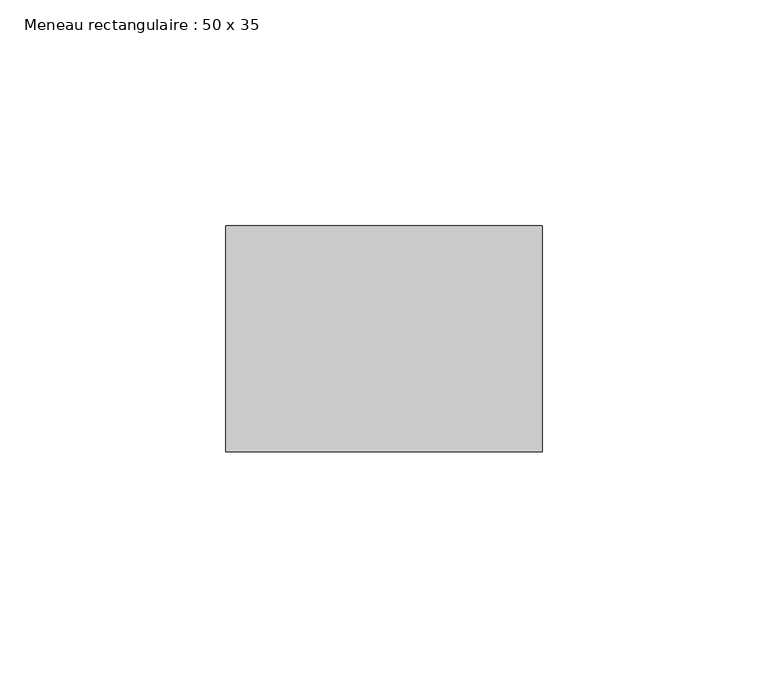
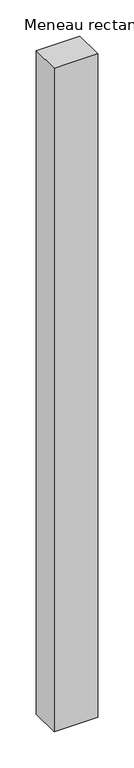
"""IFC4 building model written with IfcOpenShell, lengths in millimetres: member geometry, Meneau rectangulaire : 50 x 35."""

from ifc_helpers import new_model, si_unit, frame, origin, place, context, project, spatial, polyline, outline, extrude, source, transform, mapped, element, save


def meneau_rectangulaire_50_x_35_a2640ca1(model_context):
    return source(origin(), model_context, "Body", "SweptSolid", [
        extrude(outline(polyline([(35.0, 0.0), (35.0, -50.0), (-35.0, -50.0), (-35.0, 0.0), (35.0, 0.0)])), frame((0.0, 0.0, -1122.9820087), z_axis=(0.0, 0.0, 1.0), x_axis=(1.0, 0.0, 0.0)), (0.0, 0.0, 1.0), 1122.9820087),
    ])


if __name__ == "__main__":
    model = new_model("IFC4")
    model_context = context("Model", 3, world=origin())
    ifc_project = project(units=[si_unit("LENGTHUNIT", "METRE", prefix="MILLI")], contexts=[model_context])
    site = spatial("IfcSite", under=ifc_project)
    building = spatial("IfcBuilding", under=site)
    placement = place(None, origin())
    meneau_rectangulaire_50_x_35_shape = meneau_rectangulaire_50_x_35_a2640ca1(model_context)
    element("IfcMember", 1, ObjectType="Meneau rectangulaire : 50 x 35", at=placement, inside=building, context=model_context, shape_type="MappedRepresentation", body=[
        mapped(meneau_rectangulaire_50_x_35_shape, transform((0.0, 0.0, 0.0), x_axis=(1.0, 0.0, 0.0), y_axis=(0.0, 1.0, 0.0), z_axis=(0.0, 0.0, 1.0))),
    ])
    save(model, "model.ifc")
